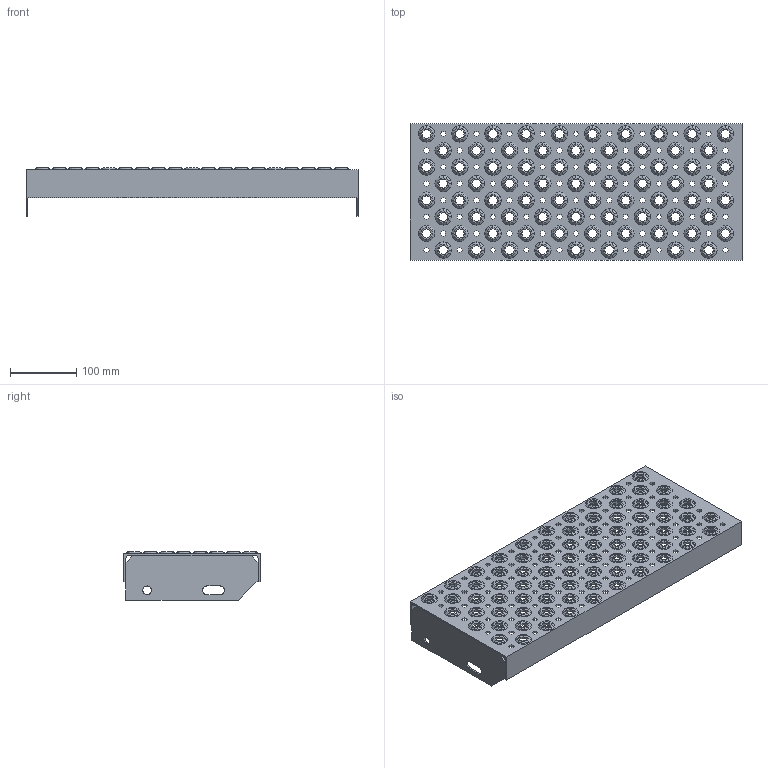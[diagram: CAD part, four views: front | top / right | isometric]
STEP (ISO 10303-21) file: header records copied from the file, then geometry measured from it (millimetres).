
FILE_DESCRIPTION(('Open CASCADE Model'),'2;1');
FILE_NAME('Open CASCADE Shape Model','2020-06-30T10:35:32',('Author'),( 'Open CASCADE'),'Open CASCADE STEP processor 7.2','Open CASCADE 7.2' ,'Unknown');
FILE_SCHEMA(('AUTOMOTIVE_DESIGN { 1 0 10303 214 1 1 1 1 }'));
Length unit declared in the file: millimetre
Products named in the file (3213): Open CASCADE STEP translator 7.2 1; Open CASCADE STEP translator 7.2 2; Open CASCADE STEP translator 7.2 3; Open CASCADE STEP translator 7.2 3.1; Open CASCADE STEP translator 7.2 3.2; Open CASCADE STEP translator 7.2 3.3; Open CASCADE STEP translator 7.2 3.4; Open CASCADE STEP translator 7.2 3.5; Open CASCADE STEP translator 7.2 3.6; Open CASCADE STEP translator 7.2 3.7; Open CASCADE STEP translator 7.2 3.8; Open CASCADE STEP translator 7.2 3.9; Open CASCADE STEP translator 7.2 3.10; Open CASCADE STEP translator 7.2 3.11; Open CASCADE STEP translator 7.2 3.12; Open CASCADE STEP translator 7.2 3.13; Open CASCADE STEP translator 7.2 3.14; Open CASCADE STEP translator 7.2 3.15; Open CASCADE STEP translator 7.2 3.16; Open CASCADE STEP translator 7.2 3.17; Open CASCADE STEP translator 7.2 3.18; Open CASCADE STEP translator 7.2 3.19; Open CASCADE STEP translator 7.2 3.20; Open CASCADE STEP translator 7.2 3.21; Open CASCADE STEP translator 7.2 3.22; Open CASCADE STEP translator 7.2 3.23; Open CASCADE STEP translator 7.2 3.24; Open CASCADE STEP translator 7.2 3.25; Open CASCADE STEP translator 7.2 3.26; Open CASCADE STEP translator 7.2 3.27; Open CASCADE STEP translator 7.2 3.28; Open CASCADE STEP translator 7.2 3.29; Open CASCADE STEP translator 7.2 3.30; Open CASCADE STEP translator 7.2 3.31; Open CASCADE STEP translator 7.2 3.32; Open CASCADE STEP translator 7.2 3.33; Open CASCADE STEP translator 7.2 3.34; Open CASCADE STEP translator 7.2 3.35; Open CASCADE STEP translator 7.2 3.36; Open CASCADE STEP translator 7.2 3.37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
Assembly tree (3210 placements, depth 2):
  Open CASCADE STEP translator 7.2 1
  Open CASCADE STEP translator 7.2 2
  Open CASCADE STEP translator 7.2 3
    Open CASCADE STEP translator 7.2 3.1
    Open CASCADE STEP translator 7.2 3.2
    Open CASCADE STEP translator 7.2 3.3
    Open CASCADE STEP translator 7.2 3.4
    Open CASCADE STEP translator 7.2 3.5
    Open CASCADE STEP translator 7.2 3.6
    Open CASCADE STEP translator 7.2 3.7
    Open CASCADE STEP translator 7.2 3.8
    Open CASCADE STEP translator 7.2 3.9
    Open CASCADE STEP translator 7.2 3.10
    Open CASCADE STEP translator 7.2 3.11
    Open CASCADE STEP translator 7.2 3.12
    Open CASCADE STEP translator 7.2 3.13
    Open CASCADE STEP translator 7.2 3.14
    Open CASCADE STEP translator 7.2 3.15
    Open CASCADE STEP translator 7.2 3.16
    Open CASCADE STEP translator 7.2 3.17
    Open CASCADE STEP translator 7.2 3.18
    Open CASCADE STEP translator 7.2 3.19
    Open CASCADE STEP translator 7.2 3.20
    Open CASCADE STEP translator 7.2 3.21
    Open CASCADE STEP translator 7.2 3.22
    Open CASCADE STEP translator 7.2 3.23
    Open CASCADE STEP translator 7.2 3.24
    Open CASCADE STEP translator 7.2 3.25
    Open CASCADE STEP translator 7.2 3.26
    Open CASCADE STEP translator 7.2 3.27
    Open CASCADE STEP translator 7.2 3.28
    Open CASCADE STEP translator 7.2 3.29
    Open CASCADE STEP translator 7.2 3.30
    Open CASCADE STEP translator 7.2 3.31
    Open CASCADE STEP translator 7.2 3.32
    Open CASCADE STEP translator 7.2 3.33
    Open CASCADE STEP translator 7.2 3.34
    Open CASCADE STEP translator 7.2 3.35
    Open CASCADE STEP translator 7.2 3.36
    Open CASCADE STEP translator 7.2 3.37
    Open CASCADE STEP translator 7.2 3.38
    Open CASCADE STEP translator 7.2 3.39
    Open CASCADE STEP translator 7.2 3.40
    Open CASCADE STEP translator 7.2 3.41
    Open CASCADE STEP translator 7.2 3.42
    Open CASCADE STEP translator 7.2 3.43
    Open CASCADE STEP translator 7.2 3.44
    Open CASCADE STEP translator 7.2 3.45
    Open CASCADE STEP translator 7.2 3.46
    Open CASCADE STEP translator 7.2 3.47
    Open CASCADE STEP translator 7.2 3.48
    Open CASCADE STEP translator 7.2 3.49
    Open CASCADE STEP translator 7.2 3.50
    Open CASCADE STEP translator 7.2 3.51
    Open CASCADE STEP translator 7.2 3.52
    Open CASCADE STEP translator 7.2 3.53
    Open CASCADE STEP translator 7.2 3.54
    Open CASCADE STEP translator 7.2 3.55
    Open CASCADE STEP translator 7.2 3.56
    Open CASCADE STEP translator 7.2 3.57
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Bounding box: 500 x 205 x 73 mm (x, y, z)
Volume: 73545.2 mm3; surface area: 386312.6 mm2
Topology: 2 solids, 3212 shells, 3238 faces, 18408 edges, 18384 vertices
Faces by surface type: plane 3232, cylinder 6
Full cylindrical faces by diameter (mm): 13 x2
Entity records: 367648 total; most frequent: CARTESIAN_POINT 61769, DIRECTION 49770, LINE 36840, VECTOR 36840, ORIENTED_EDGE 18480, PCURVE 18480, DEFINITIONAL_REPRESENTATION 18480, EDGE_CURVE 18408
